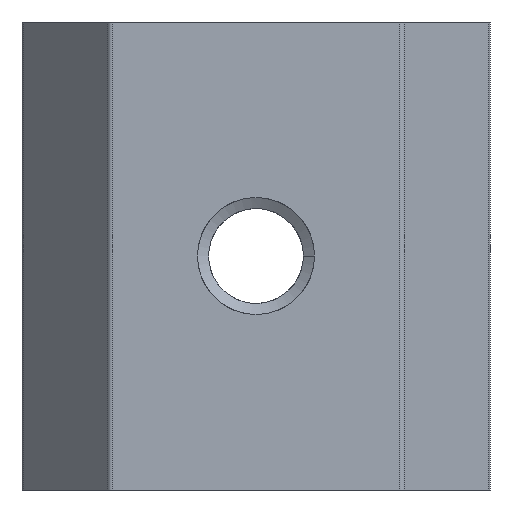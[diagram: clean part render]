
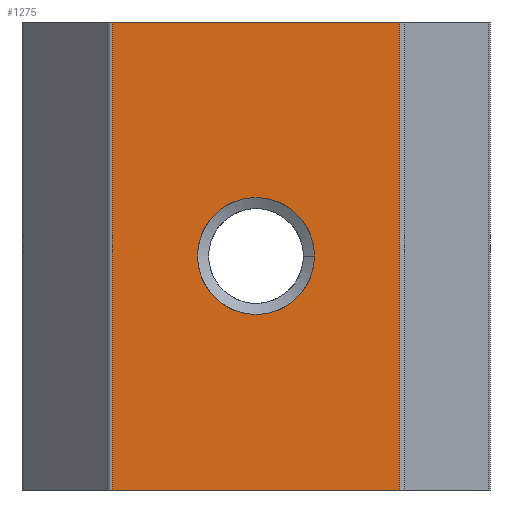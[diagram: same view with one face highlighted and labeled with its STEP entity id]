
A CAD part, front view. The second image highlights one B-rep face of the part: STEP entity #1275.
In plain terms, the highlighted planar face has unit normal (0, -1, 0).
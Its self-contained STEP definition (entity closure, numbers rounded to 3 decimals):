
#53 = LINE ( 'NONE', #1528, #1526 ) ;
#61 = VECTOR ( 'NONE', #1181, 1000. ) ;
#135 = CARTESIAN_POINT ( 'NONE',  ( 5., -6., -8. ) ) ;
#172 = LINE ( 'NONE', #577, #946 ) ;
#250 = AXIS2_PLACEMENT_3D ( 'NONE', #3317, #2557, #1013 ) ;
#304 = CIRCLE ( 'NONE', #250, 2. ) ;
#412 = EDGE_CURVE ( 'NONE', #1903, #2900, #53, .T. ) ;
#538 = CIRCLE ( 'NONE', #1641, 2. ) ;
#562 = EDGE_LOOP ( 'NONE', ( #1700, #2843 ) ) ;
#577 = CARTESIAN_POINT ( 'NONE',  ( 4.908, -6., 8. ) ) ;
#581 = EDGE_CURVE ( 'NONE', #1090, #1258, #538, .T. ) ;
#621 = CARTESIAN_POINT ( 'NONE',  ( -4.908, -6., 8. ) ) ;
#749 = DIRECTION ( 'NONE',  ( 0., 0., -1. ) ) ;
#754 = FACE_BOUND ( 'NONE', #562, .T. ) ;
#767 = EDGE_CURVE ( 'NONE', #1162, #2142, #2529, .T. ) ;
#946 = VECTOR ( 'NONE', #2409, 1000. ) ;
#976 = DIRECTION ( 'NONE',  ( -1., 0., 0. ) ) ;
#1007 = ORIENTED_EDGE ( 'NONE', *, *, #767, .T. ) ;
#1013 = DIRECTION ( 'NONE',  ( -1., 0., 0. ) ) ;
#1090 = VERTEX_POINT ( 'NONE', #2498 ) ;
#1122 = ORIENTED_EDGE ( 'NONE', *, *, #412, .F. ) ;
#1162 = VERTEX_POINT ( 'NONE', #2239 ) ;
#1181 = DIRECTION ( 'NONE',  ( 1., 0., 0. ) ) ;
#1227 = EDGE_CURVE ( 'NONE', #1903, #1162, #3006, .T. ) ;
#1229 = EDGE_CURVE ( 'NONE', #1258, #1090, #304, .T. ) ;
#1258 = VERTEX_POINT ( 'NONE', #2002 ) ;
#1275 = ADVANCED_FACE ( 'NONE', ( #754, #2302 ), #2758, .F. ) ;
#1304 = CARTESIAN_POINT ( 'NONE',  ( 4.908, -6., -8. ) ) ;
#1306 = ORIENTED_EDGE ( 'NONE', *, *, #2866, .T. ) ;
#1380 = EDGE_LOOP ( 'NONE', ( #1122, #1464, #1007, #1306 ) ) ;
#1464 = ORIENTED_EDGE ( 'NONE', *, *, #1227, .T. ) ;
#1526 = VECTOR ( 'NONE', #3313, 1000. ) ;
#1528 = CARTESIAN_POINT ( 'NONE',  ( 5., -6., 8. ) ) ;
#1641 = AXIS2_PLACEMENT_3D ( 'NONE', #2895, #2126, #1865 ) ;
#1700 = ORIENTED_EDGE ( 'NONE', *, *, #1229, .T. ) ;
#1865 = DIRECTION ( 'NONE',  ( -1., 0., 0. ) ) ;
#1903 = VERTEX_POINT ( 'NONE', #621 ) ;
#2002 = CARTESIAN_POINT ( 'NONE',  ( 2., -6., 0. ) ) ;
#2037 = CARTESIAN_POINT ( 'NONE',  ( -4.908, -6., 8. ) ) ;
#2126 = DIRECTION ( 'NONE',  ( 0., 1., 0. ) ) ;
#2142 = VERTEX_POINT ( 'NONE', #1304 ) ;
#2239 = CARTESIAN_POINT ( 'NONE',  ( -4.908, -6., -8. ) ) ;
#2277 = CARTESIAN_POINT ( 'NONE',  ( 5., -6., 8. ) ) ;
#2302 = FACE_OUTER_BOUND ( 'NONE', #1380, .T. ) ;
#2409 = DIRECTION ( 'NONE',  ( 0., 0., 1. ) ) ;
#2498 = CARTESIAN_POINT ( 'NONE',  ( -2., -6., 0. ) ) ;
#2521 = DIRECTION ( 'NONE',  ( 0., 1., 0. ) ) ;
#2529 = LINE ( 'NONE', #135, #61 ) ;
#2557 = DIRECTION ( 'NONE',  ( 0., 1., 0. ) ) ;
#2604 = AXIS2_PLACEMENT_3D ( 'NONE', #2277, #2521, #976 ) ;
#2633 = CARTESIAN_POINT ( 'NONE',  ( 4.908, -6., 8. ) ) ;
#2758 = PLANE ( 'NONE',  #2604 ) ;
#2843 = ORIENTED_EDGE ( 'NONE', *, *, #581, .T. ) ;
#2866 = EDGE_CURVE ( 'NONE', #2142, #2900, #172, .T. ) ;
#2895 = CARTESIAN_POINT ( 'NONE',  ( 0., -6., 0. ) ) ;
#2900 = VERTEX_POINT ( 'NONE', #2633 ) ;
#2965 = VECTOR ( 'NONE', #749, 1000. ) ;
#3006 = LINE ( 'NONE', #2037, #2965 ) ;
#3313 = DIRECTION ( 'NONE',  ( 1., 0., 0. ) ) ;
#3317 = CARTESIAN_POINT ( 'NONE',  ( 0., -6., 0. ) ) ;
